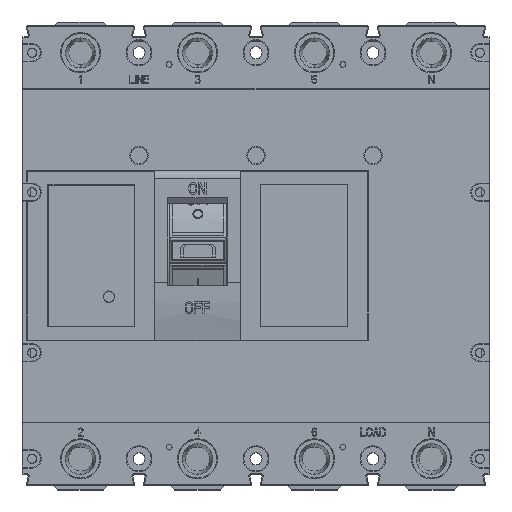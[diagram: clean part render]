
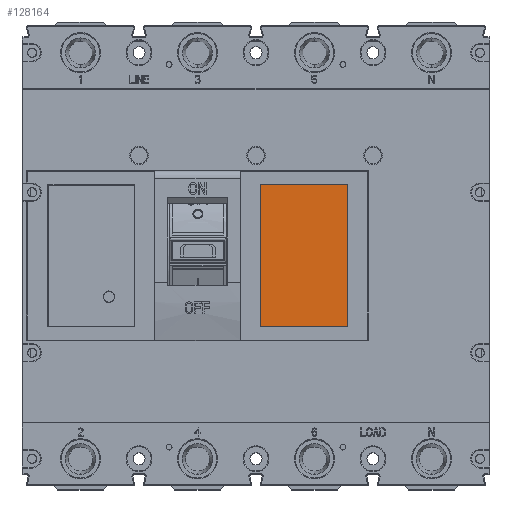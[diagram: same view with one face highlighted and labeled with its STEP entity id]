
A CAD part, top view. The second image highlights one B-rep face of the part: STEP entity #128164.
In plain terms, the highlighted planar face has unit normal (0, 0, 1).
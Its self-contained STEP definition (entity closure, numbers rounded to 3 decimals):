
#41121=DIRECTION('',(-1.,0.,0.));
#41122=VECTOR('',#41121,51.8);
#41123=CARTESIAN_POINT('',(159.5,42.5,107.4));
#41124=LINE('',#41123,#41122);
#41153=DIRECTION('',(-1.,0.,0.));
#41154=VECTOR('',#41153,51.8);
#41155=CARTESIAN_POINT('',(159.5,-42.3,107.4));
#41156=LINE('',#41155,#41154);
#41157=DIRECTION('',(0.,1.,0.));
#41158=VECTOR('',#41157,84.8);
#41159=CARTESIAN_POINT('',(107.7,-42.3,107.4));
#41160=LINE('',#41159,#41158);
#41165=DIRECTION('',(0.,-1.,0.));
#41166=VECTOR('',#41165,84.8);
#41167=CARTESIAN_POINT('',(159.5,42.5,107.4));
#41168=LINE('',#41167,#41166);
#74077=CARTESIAN_POINT('',(107.7,42.5,107.4));
#74078=VERTEX_POINT('',#74077);
#74079=CARTESIAN_POINT('',(159.5,42.5,107.4));
#74080=VERTEX_POINT('',#74079);
#74081=CARTESIAN_POINT('',(159.5,-42.3,107.4));
#74082=VERTEX_POINT('',#74081);
#74083=CARTESIAN_POINT('',(107.7,-42.3,107.4));
#74084=VERTEX_POINT('',#74083);
#128152=CARTESIAN_POINT('',(133.6,-42.3,107.4));
#128153=DIRECTION('',(0.,0.,1.));
#128154=DIRECTION('',(1.,0.,0.));
#128155=AXIS2_PLACEMENT_3D('',#128152,#128153,#128154);
#128156=PLANE('',#128155);
#128157=ORIENTED_EDGE('',*,*,#128100,.F.);
#128159=ORIENTED_EDGE('',*,*,#128158,.T.);
#128160=ORIENTED_EDGE('',*,*,#128145,.T.);
#128161=ORIENTED_EDGE('',*,*,#128113,.T.);
#128162=EDGE_LOOP('',(#128157,#128159,#128160,#128161));
#128163=FACE_OUTER_BOUND('',#128162,.F.);
#128164=ADVANCED_FACE('',(#128163),#128156,.T.);
#128100=EDGE_CURVE('',#74080,#74078,#41124,.T.);
#128113=EDGE_CURVE('',#74084,#74078,#41160,.T.);
#128145=EDGE_CURVE('',#74082,#74084,#41156,.T.);
#128158=EDGE_CURVE('',#74080,#74082,#41168,.T.);
